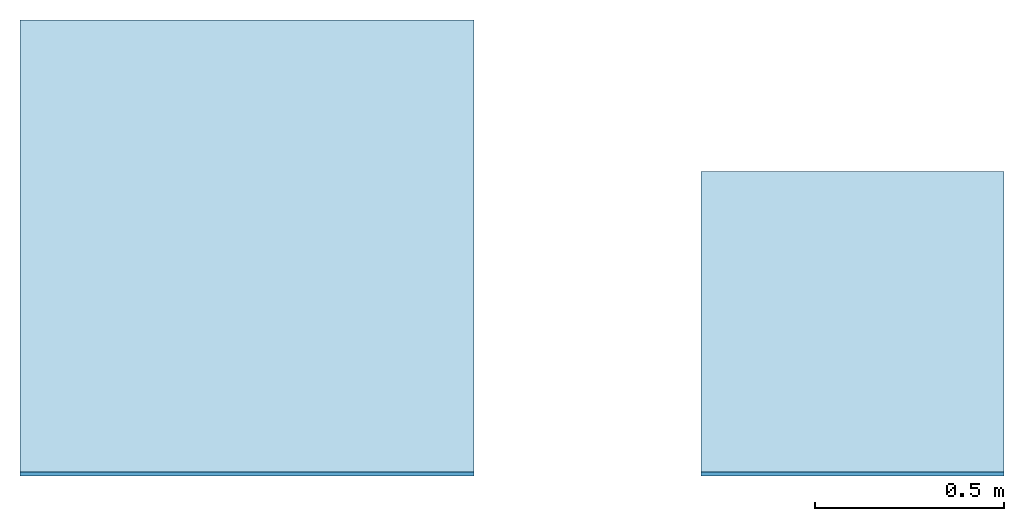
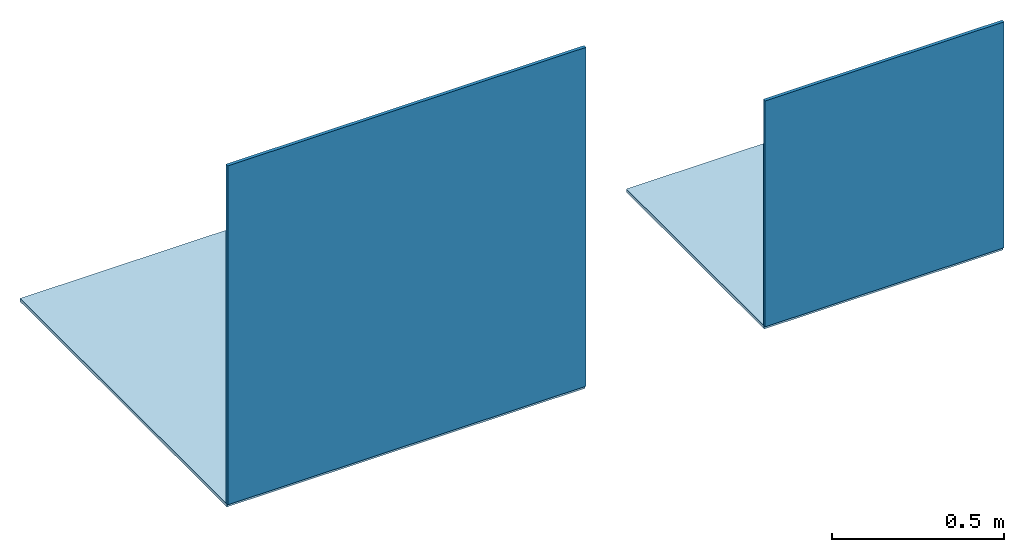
# One storey: 2 slabs, 2 walls.
"""IFC2X3 building model written with IfcOpenShell, lengths in metres."""

from ifc_helpers import new_model, entity, si_unit, converted_unit, derived_unit, direction, frame, frame_2d, origin, origin_2d_with_axis, place, context, subcontext, project, spatial, rectangle, extrude, material, layer, layer_set, layer_usage, type_object, element, save


model = new_model("IFC2X3")

# Units and contexts
model_context = context("Model", 3, precision=1e-05, world=origin(), true_north=direction((6.12303176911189e-17, 1.0)))
body_context = subcontext(model_context, "Body", "Model", "MODEL_VIEW")
ifc_project = project(units=[si_unit("LENGTHUNIT", "METRE"), si_unit("AREAUNIT", "SQUARE_METRE"), si_unit("VOLUMEUNIT", "CUBIC_METRE"), converted_unit("PLANEANGLEUNIT", "DEGREE", entity("IfcRatioMeasure", 0.0174532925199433), si_unit("PLANEANGLEUNIT", "RADIAN"), dimensions=[0, 0, 0, 0, 0, 0, 0]), si_unit("MASSUNIT", "GRAM", prefix="KILO"), si_unit("TIMEUNIT", "SECOND"), si_unit("FREQUENCYUNIT", "HERTZ"), si_unit("THERMODYNAMICTEMPERATUREUNIT", "DEGREE_CELSIUS"), derived_unit("THERMALTRANSMITTANCEUNIT", [(si_unit("MASSUNIT", "GRAM", prefix="KILO"), 1), (si_unit("THERMODYNAMICTEMPERATUREUNIT", "KELVIN"), -1), (si_unit("TIMEUNIT", "SECOND"), -3)]), derived_unit("VOLUMETRICFLOWRATEUNIT", [(si_unit("LENGTHUNIT", "METRE"), 3), (si_unit("TIMEUNIT", "SECOND"), -1)]), si_unit("ELECTRICCURRENTUNIT", "AMPERE"), si_unit("ELECTRICVOLTAGEUNIT", "VOLT"), si_unit("POWERUNIT", "WATT"), si_unit("FORCEUNIT", "NEWTON", prefix="KILO"), si_unit("ILLUMINANCEUNIT", "LUX"), si_unit("LUMINOUSFLUXUNIT", "LUMEN"), si_unit("LUMINOUSINTENSITYUNIT", "CANDELA"), derived_unit("USERDEFINED", [(si_unit("MASSUNIT", "GRAM", prefix="KILO"), -1), (si_unit("LENGTHUNIT", "METRE"), -2), (si_unit("TIMEUNIT", "SECOND"), 3), (si_unit("LUMINOUSFLUXUNIT", "LUMEN"), 1)]), derived_unit("LINEARVELOCITYUNIT", [(si_unit("LENGTHUNIT", "METRE"), 1), (si_unit("TIMEUNIT", "SECOND"), -1)]), si_unit("PRESSUREUNIT", "PASCAL"), derived_unit("USERDEFINED", [(si_unit("LENGTHUNIT", "METRE"), -2), (si_unit("MASSUNIT", "GRAM", prefix="KILO"), 1), (si_unit("TIMEUNIT", "SECOND"), -2)])], contexts=[model_context])

# Site, building, storey
site_placement = place(None, origin())
site = spatial("IfcSite", under=ifc_project, at=site_placement, Name="Default", CompositionType="ELEMENT")
building_placement = place(site_placement, origin())
building = spatial("IfcBuilding", under=site, at=building_placement, CompositionType="ELEMENT")
storey_placement = place(building_placement, origin())
storey = spatial("IfcBuildingStorey", under=building, at=storey_placement, Name="INARI FLOOR TILES", CompositionType="ELEMENT", Elevation=0.0)

# Slabs
ifc_material_1 = material(Name="VIVES - INARI-R NIEVE 120x120")
ifc_layer_1 = layer(ifc_material_1, 0.011)
ifc_layer_set_1 = layer_set([ifc_layer_1], Name="Suelo:VIVES - INARI-R NIEVE 120x120")
ifc_layer_usage_1 = layer_usage(ifc_layer_set_1, "AXIS3", "POSITIVE", 0.0)
slab_1_placement = place(storey_placement, origin())
element("IfcSlab", 1, at=slab_1_placement, inside=storey, material=ifc_layer_usage_1, Name="Suelo:VIVES - INARI-R NIEVE 120x120", ObjectType="Suelo:VIVES - INARI-R NIEVE 120x120", PredefinedType="FLOOR", context=body_context, shape_type="SweptSolid", body=[
    extrude(rectangle(XDim=1.2, YDim=1.2, at=origin_2d_with_axis()), frame((0.6, 0.6, 0.0), z_axis=(0.0, 0.0, -1.0), x_axis=(0.0, 1.0, 0.0)), (0.0, 0.0, 1.0), 0.011),
])
ifc_material_2 = material(Name="VIVES - INARI-R NIEVE 80x80")
ifc_layer_2 = layer(ifc_material_2, 0.011)
ifc_layer_set_2 = layer_set([ifc_layer_2], Name="Suelo:VIVES - INARI-R NIEVE 80x80")
ifc_layer_usage_2 = layer_usage(ifc_layer_set_2, "AXIS3", "POSITIVE", 0.0)
slab_2_placement = place(storey_placement, origin())
element("IfcSlab", 2, at=slab_2_placement, inside=storey, material=ifc_layer_usage_2, Name="Suelo:VIVES - INARI-R NIEVE 80x80", ObjectType="Suelo:VIVES - INARI-R NIEVE 80x80", PredefinedType="FLOOR", context=body_context, shape_type="SweptSolid", body=[
    extrude(rectangle(XDim=0.8, YDim=0.8, at=origin_2d_with_axis()), frame((2.2, 0.4, 0.0), z_axis=(0.0, 0.0, -1.0), x_axis=(0.0, 1.0, 0.0)), (0.0, 0.0, 1.0), 0.011),
])

# Walls
ifc_layer_3 = layer(ifc_material_1, 0.011)
ifc_layer_set_3 = layer_set([ifc_layer_3], Name="Muro básico:VIVES - INARI-R NIEVE 120x120")
ifc_layer_usage_3 = layer_usage(ifc_layer_set_3, "AXIS2", "NEGATIVE", 0.0055)
wall_type_1 = type_object("IfcWallType", Name="Muro básico:VIVES - INARI-R NIEVE 120x120", PredefinedType="STANDARD", material=ifc_layer_set_3)
wall_1_placement = place(storey_placement, origin())
element("IfcWallStandardCase", 3, at=wall_1_placement, inside=storey, type_object=wall_type_1, material=ifc_layer_usage_3, Name="Muro básico:VIVES - INARI-R NIEVE 120x120", ObjectType="Muro básico:VIVES - INARI-R NIEVE 120x120", context=body_context, shape_type="SweptSolid", body=[
    extrude(rectangle(XDim=1.2, YDim=0.011, at=frame_2d((0.6, 0.0), x_axis=(-1.0, 0.0))), origin(), (0.0, 0.0, 1.0), 1.2),
])
ifc_layer_4 = layer(ifc_material_2, 0.011)
ifc_layer_set_4 = layer_set([ifc_layer_4], Name="Muro básico:VIVES - INARI-R NIEVE 80x80")
ifc_layer_usage_4 = layer_usage(ifc_layer_set_4, "AXIS2", "NEGATIVE", 0.0055)
wall_type_2 = type_object("IfcWallType", Name="Muro básico:VIVES - INARI-R NIEVE 80x80", PredefinedType="STANDARD", material=ifc_layer_set_4)
wall_2_placement = place(storey_placement, frame((1.8, 0.0, 0.0)))
element("IfcWallStandardCase", 4, at=wall_2_placement, inside=storey, type_object=wall_type_2, material=ifc_layer_usage_4, Name="Muro básico:VIVES - INARI-R NIEVE 80x80", ObjectType="Muro básico:VIVES - INARI-R NIEVE 80x80", context=body_context, shape_type="SweptSolid", body=[
    extrude(rectangle(XDim=0.8, YDim=0.011, at=frame_2d((0.4, 0.0), x_axis=(-1.0, 0.0))), origin(), (0.0, 0.0, 1.0), 0.8),
])

save(model, "model.ifc")
